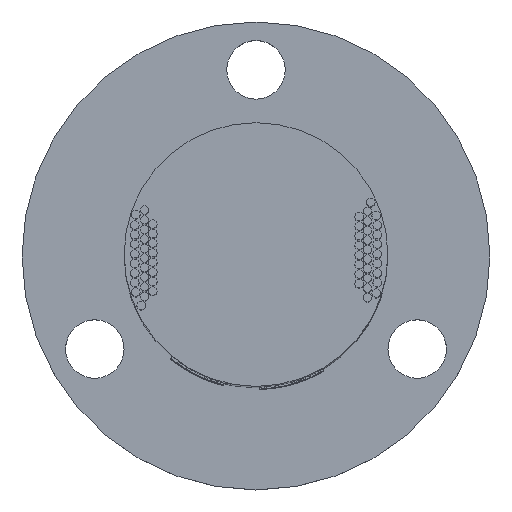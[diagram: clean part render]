
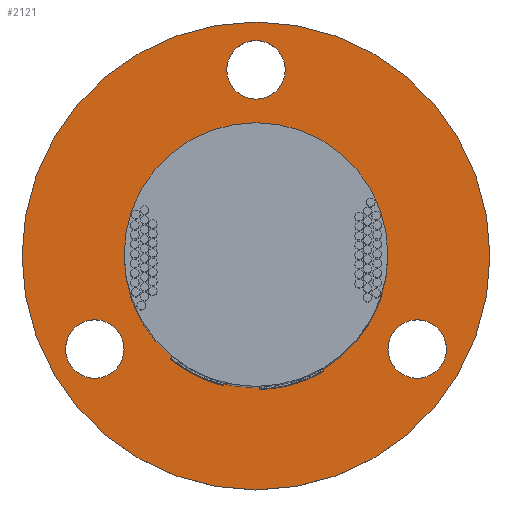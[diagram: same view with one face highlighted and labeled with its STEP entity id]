
A CAD part, top view. The second image highlights one B-rep face of the part: STEP entity #2121.
In plain terms, the highlighted planar face has unit normal (0, 0, 1).
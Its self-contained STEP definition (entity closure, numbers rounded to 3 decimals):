
#346=FACE_BOUND('',#3955,.T.);
#347=FACE_BOUND('',#3956,.T.);
#348=FACE_BOUND('',#3957,.T.);
#349=FACE_BOUND('',#3958,.T.);
#350=FACE_BOUND('',#3959,.T.);
#701=CIRCLE('',#12801,12.4);
#759=CIRCLE('',#12861,2.75);
#760=CIRCLE('',#12862,2.75);
#761=CIRCLE('',#12863,2.75);
#762=CIRCLE('',#12864,22.);
#2121=ADVANCED_FACE('',(#346,#347,#348,#349,#350),#2639,.T.);
#2639=PLANE('',#12865);
#3955=EDGE_LOOP('',(#6705));
#3956=EDGE_LOOP('',(#6706));
#3957=EDGE_LOOP('',(#6707));
#3958=EDGE_LOOP('',(#6708));
#3959=EDGE_LOOP('',(#6709));
#6705=ORIENTED_EDGE('',*,*,#10517,.F.);
#6706=ORIENTED_EDGE('',*,*,#10518,.F.);
#6707=ORIENTED_EDGE('',*,*,#10519,.F.);
#6708=ORIENTED_EDGE('',*,*,#10459,.T.);
#6709=ORIENTED_EDGE('',*,*,#10520,.F.);
#8827=VERTEX_POINT('',#24118);
#8885=VERTEX_POINT('',#24236);
#8886=VERTEX_POINT('',#24238);
#8887=VERTEX_POINT('',#24240);
#8888=VERTEX_POINT('',#24242);
#10459=EDGE_CURVE('',#8827,#8827,#701,.T.);
#10517=EDGE_CURVE('',#8885,#8885,#759,.T.);
#10518=EDGE_CURVE('',#8886,#8886,#760,.T.);
#10519=EDGE_CURVE('',#8887,#8887,#761,.T.);
#10520=EDGE_CURVE('',#8888,#8888,#762,.T.);
#12801=AXIS2_PLACEMENT_3D('',#24117,#14293,#14294);
#12861=AXIS2_PLACEMENT_3D('',#24235,#14413,#14414);
#12862=AXIS2_PLACEMENT_3D('',#24237,#14415,#14416);
#12863=AXIS2_PLACEMENT_3D('',#24239,#14417,#14418);
#12864=AXIS2_PLACEMENT_3D('',#24241,#14419,#14420);
#12865=AXIS2_PLACEMENT_3D('',#24243,#14421,#14422);
#14293=DIRECTION('',(0.,0.,-1.));
#14294=DIRECTION('',(1.,0.,0.));
#14413=DIRECTION('',(0.,0.,1.));
#14414=DIRECTION('',(1.,0.,0.));
#14415=DIRECTION('',(0.,0.,1.));
#14416=DIRECTION('',(1.,0.,0.));
#14417=DIRECTION('',(0.,0.,1.));
#14418=DIRECTION('',(1.,0.,0.));
#14419=DIRECTION('',(0.,0.,-1.));
#14420=DIRECTION('',(1.,0.,0.));
#14421=DIRECTION('',(0.,0.,1.));
#14422=DIRECTION('',(1.,0.,0.));
#24117=CARTESIAN_POINT('',(0.,0.,189.5));
#24118=CARTESIAN_POINT('',(12.4,0.,189.5));
#24235=CARTESIAN_POINT('',(0.,17.5,189.5));
#24236=CARTESIAN_POINT('',(2.75,17.5,189.5));
#24237=CARTESIAN_POINT('',(-15.155,-8.75,189.5));
#24238=CARTESIAN_POINT('',(-12.405,-8.75,189.5));
#24239=CARTESIAN_POINT('',(15.155,-8.75,189.5));
#24240=CARTESIAN_POINT('',(17.905,-8.75,189.5));
#24241=CARTESIAN_POINT('',(0.,0.,189.5));
#24242=CARTESIAN_POINT('',(22.,0.,189.5));
#24243=CARTESIAN_POINT('',(0.,0.,189.5));
